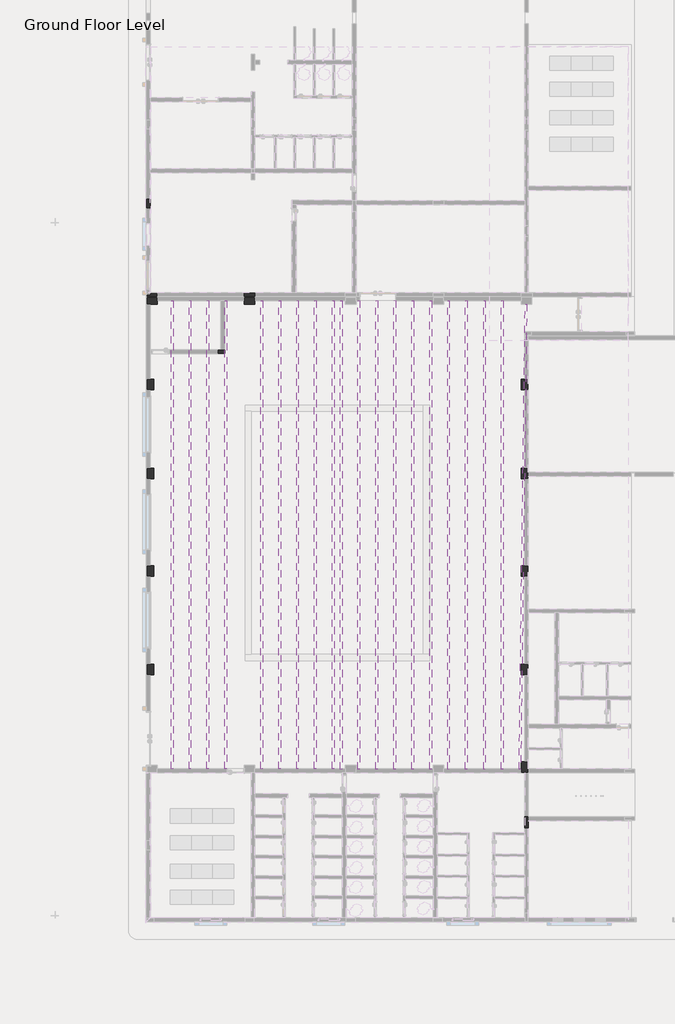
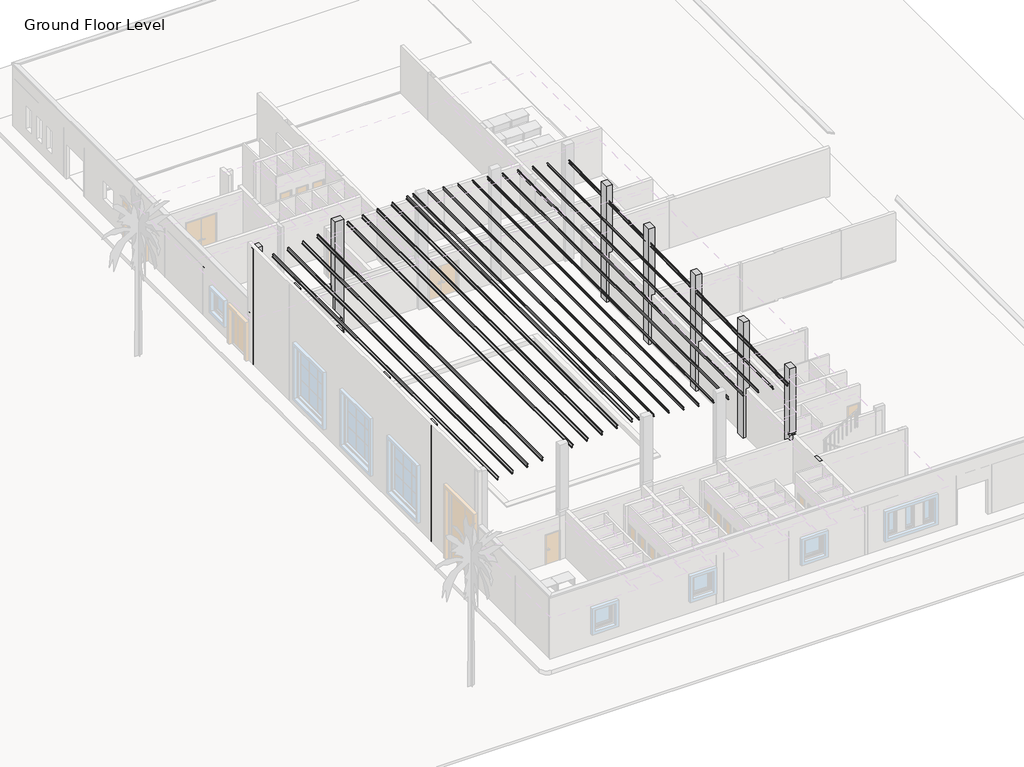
# One storey, part 14 of 23: 37 beams, 16 columns, 14 slabs.
"""IFC4 building model written with IfcOpenShell, lengths in millimetres."""

from ifc_helpers import new_model, si_unit, frame, origin, place, context, project, spatial, polyline, outline, extrude, faceted_brep, transform, mapped, element, save
from components import light_gauge_c_purlin_a75ac1f7, light_gauge_zeds_purlin_6e7aff67, light_gauge_zeds_purlin_74075710

model = new_model("IFC4")

# Units and contexts
model_context = context("Model", 3, world=origin())
ifc_project = project(units=[si_unit("LENGTHUNIT", "METRE", prefix="MILLI")], contexts=[model_context])

# Site, building, storey
site = spatial("IfcSite", under=ifc_project)
building = spatial("IfcBuilding", under=site)
storey = spatial("IfcBuildingStorey", under=building, Name="Ground Floor Level", Elevation=900.0)

# Beams
placement = place(None, origin())
element("IfcBeam", 1, ObjectType="Concrete - Rectangular Beam : GB1", at=placement, inside=storey, context=model_context, shape_type="SweptSolid", body=[
    extrude(outline(polyline([(-17847.2327605, -6374.7846466), (-17647.2327605, -6374.7846466), (-17647.2327605, -9154.7846466), (-17847.2327605, -9154.7846466), (-17847.2327605, -6374.7846466)])), frame((0.0, 0.0, 500.0), z_axis=(0.0, 0.0, 1.0), x_axis=(1.0, 0.0, 0.0)), (0.0, 0.0, 1.0), 100.0),
])
element("IfcBeam", 2, ObjectType="Concrete - Rectangular Beam : GB2", at=placement, inside=storey, context=model_context, shape_type="SweptSolid", body=[
    extrude(outline(polyline([(-747.2327605, -32954.7846466), (-547.2327605, -32954.7846466), (-547.2327605, -35454.7846466), (-747.2327605, -35454.7846466), (-747.2327605, -32954.7846466)])), frame((0.0, 0.0, 300.0), z_axis=(0.0, 0.0, 1.0), x_axis=(1.0, 0.0, 0.0)), (0.0, 0.0, 1.0), 600.0),
])
element("IfcBeam", 3, ObjectType="Concrete - Rectangular Beam : GB3", at=placement, inside=storey, context=model_context, shape_type="SweptSolid", body=[
    extrude(outline(polyline([(-16147.2327605, 445.2153534), (-15947.2327605, 445.2153534), (-15947.2327605, -5904.7846466), (-16147.2327605, -5904.7846466), (-16147.2327605, 445.2153534)])), frame((0.0, 0.0, 300.0), z_axis=(0.0, 0.0, 1.0), x_axis=(1.0, 0.0, 0.0)), (0.0, 0.0, 1.0), 300.0),
])
element("IfcBeam", 4, ObjectType="Concrete - Rectangular Beam : GB3", at=placement, inside=storey, context=model_context, shape_type="SweptSolid", body=[
    extrude(outline(polyline([(-21847.2327605, -9354.7846466), (-21847.2327605, -9154.7846466), (-18047.2327605, -9154.7846466), (-18047.2327605, -9354.7846466), (-21847.2327605, -9354.7846466)])), frame((0.0, 0.0, 300.0), z_axis=(0.0, 0.0, 1.0), x_axis=(1.0, 0.0, 0.0)), (0.0, 0.0, 1.0), 300.0),
])
element("IfcBeam", 5, ObjectType="Concrete - Rectangular Beam : GB4", at=placement, inside=storey, context=model_context, shape_type="SweptSolid", body=[
    extrude(outline(polyline([(-22047.2327605, -5954.7846466), (-22047.2327605, -1154.7846466), (-21847.2327605, -1154.7846466), (-21847.2327605, -5954.7846466), (-22047.2327605, -5954.7846466)])), frame((0.0, 0.0, 300.0), z_axis=(0.0, 0.0, 1.0), x_axis=(1.0, 0.0, 0.0)), (0.0, 0.0, 1.0), 300.0),
])
element("IfcBeam", 6, ObjectType="Concrete - Rectangular Beam : GB4", at=placement, inside=storey, context=model_context, shape_type="SweptSolid", body=[
    extrude(outline(polyline([(-22047.2327605, -11404.7846466), (-21847.2327605, -11404.7846466), (-21847.2327605, -15804.7846466), (-22047.2327605, -15804.7846466), (-22047.2327605, -11404.7846466)])), frame((0.0, 0.0, 300.0), z_axis=(0.0, 0.0, 1.0), x_axis=(1.0, 0.0, 0.0)), (0.0, 0.0, 1.0), 300.0),
])
element("IfcBeam", 7, ObjectType="Concrete - Rectangular Beam : GB4", at=placement, inside=storey, context=model_context, shape_type="SweptSolid", body=[
    extrude(outline(polyline([(-21847.2327605, -21304.7846466), (-22047.2327605, -21304.7846466), (-22047.2327605, -16404.7846466), (-21847.2327605, -16404.7846466), (-21847.2327605, -21304.7846466)])), frame((0.0, 0.0, 300.0), z_axis=(0.0, 0.0, 1.0), x_axis=(1.0, 0.0, 0.0)), (0.0, 0.0, 1.0), 300.0),
])
element("IfcBeam", 8, ObjectType="Concrete - Rectangular Beam : GB4", at=placement, inside=storey, context=model_context, shape_type="SweptSolid", body=[
    extrude(outline(polyline([(-22047.2327605, -26854.7846468), (-22047.2327605, -21904.7846466), (-21847.2327605, -21904.7846466), (-21847.2327605, -26854.7846468), (-22047.2327605, -26854.7846468)])), frame((0.0, 0.0, 300.0), z_axis=(0.0, 0.0, 1.0), x_axis=(1.0, 0.0, 0.0)), (0.0, 0.0, 1.0), 300.0),
])
element("IfcBeam", 9, ObjectType="Concrete - Rectangular Beam : GB4", at=placement, inside=storey, context=model_context, shape_type="SweptSolid", body=[
    extrude(outline(polyline([(-22047.2327605, -32554.7846466), (-22047.2327605, -27454.7846468), (-21847.2327605, -27454.7846468), (-21847.2327605, -32554.7846466), (-22047.2327605, -32554.7846466)])), frame((0.0, 0.0, 300.0), z_axis=(0.0, 0.0, 1.0), x_axis=(1.0, 0.0, 0.0)), (0.0, 0.0, 1.0), 300.0),
])
element("IfcBeam", 10, ObjectType="Concrete - Rectangular Beam : GB4", at=placement, inside=storey, context=model_context, shape_type="SweptSolid", body=[
    extrude(outline(polyline([(-747.2327605, -11404.7846466), (-547.2327605, -11404.7846466), (-547.2327605, -15804.7846466), (-747.2327605, -15804.7846466), (-747.2327605, -11404.7846466)])), frame((0.0, 0.0, 300.0), z_axis=(0.0, 0.0, 1.0), x_axis=(1.0, 0.0, 0.0)), (0.0, 0.0, 1.0), 300.0),
])
element("IfcBeam", 11, ObjectType="Concrete - Rectangular Beam : GB4", at=placement, inside=storey, context=model_context, shape_type="SweptSolid", body=[
    extrude(outline(polyline([(-747.2327605, -16404.7846466), (-547.2327605, -16404.7846466), (-547.2327605, -21304.7846466), (-747.2327605, -21304.7846466), (-747.2327605, -16404.7846466)])), frame((0.0, 0.0, 300.0), z_axis=(0.0, 0.0, 1.0), x_axis=(1.0, 0.0, 0.0)), (0.0, 0.0, 1.0), 600.0),
])
element("IfcBeam", 12, ObjectType="Concrete - Rectangular Beam : GB5", at=placement, inside=storey, context=model_context, shape_type="Brep", body=[
    faceted_brep([(-22047.2327605, -6574.7846466, 300.0), (-22047.2327605, -10804.7846466, 300.0), (-22047.2327605, -10804.7846466, 600.0), (-22047.2327605, -6574.7846466, 600.0), (-21847.2327605, -10804.7846466, 300.0), (-21847.2327605, -6574.7846466, 300.0), (-21847.2327605, -9154.7846466, 300.0), (-21847.2327605, -9354.7846466, 300.0), (-21847.2327605, -6574.7846466, 600.0), (-21847.2327605, -9154.7846466, 600.0), (-21847.2327605, -9354.7846466, 600.0), (-21847.2327605, -10804.7846466, 600.0)], [[[0, 1, 2, 3]], [[4, 1, 0, 5, 6, 7]], [[4, 7, 6, 5, 8, 9, 10, 11]], [[1, 4, 11, 2]], [[5, 0, 3, 8]], [[3, 2, 11, 10, 9, 8]]]),
])
element("IfcBeam", 13, ObjectType="Concrete - Rectangular Beam : GB5", at=placement, inside=storey, context=model_context, shape_type="SweptSolid", body=[
    extrude(outline(polyline([(-16547.2327605, -5954.7846466), (-16547.2327605, -6154.7846466), (-21447.2327605, -6154.7846466), (-21447.2327605, -5954.7846466), (-16547.2327605, -5954.7846466)])), frame((0.0, 0.0, 300.0), z_axis=(0.0, 0.0, 1.0), x_axis=(1.0, 0.0, 0.0)), (0.0, 0.0, 1.0), 300.0),
])
element("IfcBeam", 14, ObjectType="Concrete - Rectangular Beam : GB5", at=placement, inside=storey, context=model_context, shape_type="Brep", body=[
    faceted_brep([(-21447.2327605, -6374.7846466, 300.0), (-16547.2327605, -6374.7846466, 300.0), (-16547.2327605, -6374.7846466, 600.0), (-17647.2327605, -6374.7846466, 600.0), (-17847.2327605, -6374.7846466, 600.0), (-21447.2327605, -6374.7846466, 600.0), (-21447.2327605, -6174.7846466, 300.0), (-16547.2327605, -6174.7846466, 300.0), (-21447.2327605, -6174.7846466, 600.0), (-16547.2327605, -6174.7846466, 600.0)], [[[0, 1, 2, 3, 4, 5]], [[0, 6, 7, 1]], [[7, 6, 8, 9]], [[6, 0, 5, 8]], [[1, 7, 9, 2]], [[5, 4, 3, 2, 9, 8]]]),
])
element("IfcBeam", 15, ObjectType="Concrete - Rectangular Beam : GB5", at=placement, inside=storey, context=model_context, shape_type="SweptSolid", body=[
    extrude(outline(polyline([(-747.2327605, -21904.7846466), (-547.2327605, -21904.7846466), (-547.2327605, -26854.7846466), (-747.2327605, -26854.7846466), (-747.2327605, -21904.7846466)])), frame((0.0, 0.0, 300.0), z_axis=(0.0, 0.0, 1.0), x_axis=(1.0, 0.0, 0.0)), (0.0, 0.0, 1.0), 600.0),
])
element("IfcBeam", 16, ObjectType="Concrete - Rectangular Beam : GB5", at=placement, inside=storey, context=model_context, shape_type="SweptSolid", body=[
    extrude(outline(polyline([(-747.2327605, -27454.7846466), (-547.2327605, -27454.7846466), (-547.2327605, -32354.7846466), (-747.2327605, -32354.7846466), (-747.2327605, -27454.7846466)])), frame((0.0, 0.0, 300.0), z_axis=(0.0, 0.0, 1.0), x_axis=(1.0, 0.0, 0.0)), (0.0, 0.0, 1.0), 600.0),
])
element("IfcBeam", 17, ObjectType="Concrete - Rectangular Beam : GB5", at=placement, inside=storey, context=model_context, shape_type="SweptSolid", body=[
    extrude(outline(polyline([(-947.2327605, -32754.7846466), (-947.2327605, -32954.7846466), (-5297.2327605, -32954.7846466), (-5297.2327605, -32754.7846466), (-947.2327605, -32754.7846466)])), frame((0.0, 0.0, 300.0), z_axis=(0.0, 0.0, 1.0), x_axis=(1.0, 0.0, 0.0)), (0.0, 0.0, 1.0), 600.0),
])
light_gauge_c_purlin_shape = light_gauge_c_purlin_a75ac1f7(model_context)
element("IfcBeam", 18, ObjectType="Light Gauge-C Purlin : Metsec-202C15", at=placement, inside=storey, context=model_context, shape_type="MappedRepresentation", body=[
    mapped(light_gauge_c_purlin_shape, transform((-830.523976, -19624.7846466, 7999.4120033), x_axis=(-0.013120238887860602, -0.999912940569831, 0.0014037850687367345), y_axis=(0.99423827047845, -0.013195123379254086, -0.10637739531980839), z_axis=(0.1063866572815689, 0.0, 0.9943248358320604))),
])
light_gauge_zeds_purlin_shape = light_gauge_zeds_purlin_6e7aff67(model_context)
element("IfcBeam", 19, ObjectType="Light Gauge-Zeds-Purlin : Metsec-202Z20", at=placement, inside=storey, context=model_context, shape_type="MappedRepresentation", body=[
    mapped(light_gauge_zeds_purlin_shape, transform((-20609.1974466, -19559.7846466, 8126.0075516), x_axis=(0.0, 1.0, 0.0), y_axis=(-0.9943248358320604, 0.0, -0.1063866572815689), z_axis=(-0.1063866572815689, 0.0, 0.9943248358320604))),
])
element("IfcBeam", 20, ObjectType="Light Gauge-Zeds-Purlin : Metsec-202Z20", at=placement, inside=storey, context=model_context, shape_type="MappedRepresentation", body=[
    mapped(light_gauge_zeds_purlin_shape, transform((-19601.9507454, -19559.7846466, 8233.7767692), x_axis=(0.0, 1.0, 0.0), y_axis=(-0.9943248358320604, 0.0, -0.1063866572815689), z_axis=(-0.1063866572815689, 0.0, 0.9943248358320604))),
])
element("IfcBeam", 21, ObjectType="Light Gauge-Zeds-Purlin : Metsec-202Z20", at=placement, inside=storey, context=model_context, shape_type="MappedRepresentation", body=[
    mapped(light_gauge_zeds_purlin_shape, transform((-18592.8606452, -19559.7846466, 8341.7432192), x_axis=(0.0, 1.0, 0.0), y_axis=(-0.9943248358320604, 0.0, -0.1063866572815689), z_axis=(-0.1063866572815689, 0.0, 0.9943248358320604))),
])
element("IfcBeam", 22, ObjectType="Light Gauge-Zeds-Purlin : Metsec-202Z20", at=placement, inside=storey, context=model_context, shape_type="MappedRepresentation", body=[
    mapped(light_gauge_zeds_purlin_shape, transform((-17582.9499586, -19559.7846466, 8449.7974669), x_axis=(0.0, 1.0, 0.0), y_axis=(-0.9943248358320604, 0.0, -0.1063866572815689), z_axis=(-0.1063866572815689, 0.0, 0.9943248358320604))),
])
element("IfcBeam", 23, ObjectType="Light Gauge-Zeds-Purlin : Metsec-202Z20", at=placement, inside=storey, context=model_context, shape_type="MappedRepresentation", body=[
    mapped(light_gauge_zeds_purlin_shape, transform((-15564.3582866, -19559.7846466, 8665.7743918), x_axis=(0.0, 1.0, 0.0), y_axis=(-0.9943248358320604, 0.0, -0.1063866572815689), z_axis=(-0.1063866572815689, 0.0, 0.9943248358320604))),
])
element("IfcBeam", 24, ObjectType="Light Gauge-Zeds-Purlin : Metsec-202Z20", at=placement, inside=storey, context=model_context, shape_type="MappedRepresentation", body=[
    mapped(light_gauge_zeds_purlin_shape, transform((-14547.6510449, -19559.7846466, 8774.5558292), x_axis=(0.0, 1.0, 0.0), y_axis=(-0.9943248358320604, 0.0, -0.1063866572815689), z_axis=(-0.1063866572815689, 0.0, 0.9943248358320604))),
])
element("IfcBeam", 25, ObjectType="Light Gauge-Zeds-Purlin : Metsec-202Z20", at=placement, inside=storey, context=model_context, shape_type="MappedRepresentation", body=[
    mapped(light_gauge_zeds_purlin_shape, transform((-13544.9479825, -19559.7846466, 8881.8389053), x_axis=(0.0, 1.0, 0.0), y_axis=(-0.9943248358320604, 0.0, -0.1063866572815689), z_axis=(-0.1063866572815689, 0.0, 0.9943248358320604))),
])
element("IfcBeam", 26, ObjectType="Light Gauge-Zeds-Purlin : Metsec-202Z20", at=placement, inside=storey, context=model_context, shape_type="MappedRepresentation", body=[
    mapped(light_gauge_zeds_purlin_shape, transform((-12535.4471869, -19559.7846466, 8989.8492972), x_axis=(0.0, 1.0, 0.0), y_axis=(-0.9943248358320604, 0.0, -0.1063866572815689), z_axis=(-0.1063866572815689, 0.0, 0.9943248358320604))),
])
element("IfcBeam", 27, ObjectType="Light Gauge-Zeds-Purlin : Metsec-202Z20", at=placement, inside=storey, context=model_context, shape_type="MappedRepresentation", body=[
    mapped(light_gauge_zeds_purlin_shape, transform((-11525.9463912, -19559.7846466, 9097.8596891), x_axis=(0.0, 1.0, 0.0), y_axis=(-0.9943248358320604, 0.0, -0.1063866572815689), z_axis=(-0.1063866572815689, 0.0, 0.9943248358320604))),
])
light_gauge_zeds_purlin_2_shape = light_gauge_zeds_purlin_74075710(model_context)
element("IfcBeam", 28, ObjectType="Light Gauge-Zeds-Purlin : Metsec-202Z20", at=placement, inside=storey, context=model_context, shape_type="MappedRepresentation", body=[
    mapped(light_gauge_zeds_purlin_2_shape, transform((-2007.8234659, -19574.7846466, 8126.2809628), x_axis=(0.0, -1.0, 0.0), y_axis=(0.9943248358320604, 0.0, -0.1063866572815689), z_axis=(0.1063866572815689, 0.0, 0.9943248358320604))),
])
element("IfcBeam", 29, ObjectType="Light Gauge-Zeds-Purlin : Metsec-202Z20", at=placement, inside=storey, context=model_context, shape_type="MappedRepresentation", body=[
    mapped(light_gauge_zeds_purlin_2_shape, transform((-3010.5261259, -19574.7846466, 8233.5639959), x_axis=(0.0, -1.0, 0.0), y_axis=(0.9943248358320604, 0.0, -0.1063866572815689), z_axis=(0.1063866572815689, 0.0, 0.9943248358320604))),
])
element("IfcBeam", 30, ObjectType="Light Gauge-Zeds-Purlin : Metsec-202Z20", at=placement, inside=storey, context=model_context, shape_type="MappedRepresentation", body=[
    mapped(light_gauge_zeds_purlin_2_shape, transform((-4026.824655, -19574.7846466, 8342.3017036), x_axis=(0.0, -1.0, 0.0), y_axis=(0.9943248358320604, 0.0, -0.1063866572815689), z_axis=(0.1063866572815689, 0.0, 0.9943248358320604))),
])
element("IfcBeam", 31, ObjectType="Light Gauge-Zeds-Purlin : Metsec-202Z20", at=placement, inside=storey, context=model_context, shape_type="MappedRepresentation", body=[
    mapped(light_gauge_zeds_purlin_2_shape, transform((-5036.3246462, -19574.7846466, 8450.3120094), x_axis=(0.0, -1.0, 0.0), y_axis=(0.9943248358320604, 0.0, -0.1063866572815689), z_axis=(0.1063866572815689, 0.0, 0.9943248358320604))),
])
element("IfcBeam", 32, ObjectType="Light Gauge-Zeds-Purlin : Metsec-202Z20", at=placement, inside=storey, context=model_context, shape_type="MappedRepresentation", body=[
    mapped(light_gauge_zeds_purlin_2_shape, transform((-6039.0273063, -19574.7846466, 8557.5950425), x_axis=(0.0, -1.0, 0.0), y_axis=(0.9943248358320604, 0.0, -0.1063866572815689), z_axis=(0.1063866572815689, 0.0, 0.9943248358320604))),
])
element("IfcBeam", 33, ObjectType="Light Gauge-Zeds-Purlin : Metsec-202Z20", at=placement, inside=storey, context=model_context, shape_type="MappedRepresentation", body=[
    mapped(light_gauge_zeds_purlin_2_shape, transform((-7048.5281019, -19574.7846466, 8665.6054343), x_axis=(0.0, -1.0, 0.0), y_axis=(0.9943248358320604, 0.0, -0.1063866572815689), z_axis=(0.1063866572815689, 0.0, 0.9943248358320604))),
])
element("IfcBeam", 34, ObjectType="Light Gauge-Zeds-Purlin : Metsec-202Z20", at=placement, inside=storey, context=model_context, shape_type="MappedRepresentation", body=[
    mapped(light_gauge_zeds_purlin_2_shape, transform((-8058.0280931, -19574.7846466, 8773.6157401), x_axis=(0.0, -1.0, 0.0), y_axis=(0.9943248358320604, 0.0, -0.1063866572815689), z_axis=(0.1063866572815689, 0.0, 0.9943248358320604))),
])
element("IfcBeam", 35, ObjectType="Light Gauge-Zeds-Purlin : Metsec-202Z20", at=placement, inside=storey, context=model_context, shape_type="MappedRepresentation", body=[
    mapped(light_gauge_zeds_purlin_2_shape, transform((-9067.5288888, -19574.7846466, 8881.626132), x_axis=(0.0, -1.0, 0.0), y_axis=(0.9943248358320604, 0.0, -0.1063866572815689), z_axis=(0.1063866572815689, 0.0, 0.9943248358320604))),
])
element("IfcBeam", 36, ObjectType="Light Gauge-Zeds-Purlin : Metsec-202Z20", at=placement, inside=storey, context=model_context, shape_type="MappedRepresentation", body=[
    mapped(light_gauge_zeds_purlin_2_shape, transform((-10083.8274179, -19574.7846466, 8990.3638397), x_axis=(0.0, -1.0, 0.0), y_axis=(0.9943248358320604, 0.0, -0.1063866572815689), z_axis=(0.1063866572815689, 0.0, 0.9943248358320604))),
])
element("IfcBeam", 37, ObjectType="Light Gauge-Zeds-Purlin : Metsec-202Z20", at=placement, inside=storey, context=model_context, shape_type="MappedRepresentation", body=[
    mapped(light_gauge_zeds_purlin_2_shape, transform((-11086.5304802, -19574.7846466, 9097.6469158), x_axis=(0.0, -1.0, 0.0), y_axis=(0.9943248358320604, 0.0, -0.1063866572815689), z_axis=(0.1063866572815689, 0.0, 0.9943248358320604))),
])

# Columns
element("IfcColumn", 38, ObjectType="Concrete Rectangular : C1", at=placement, inside=storey, context=model_context, shape_type="Brep", body=[
    faceted_brep([(-18047.2327605, -9154.7846466, -300.0), (-17647.2327605, -9154.7846466, -300.0), (-17647.2327605, -9354.7846466, -300.0), (-18047.2327605, -9354.7846466, -300.0), (-18047.2327605, -9154.7846466, 900.0), (-18047.2327605, -9154.7846466, 4270.0), (-17657.2327605, -9154.7846466, 4270.0), (-17657.2327605, -9154.7846466, 4400.0), (-17647.2327605, -9154.7846466, 4400.0), (-17647.2327605, -9154.7846466, 900.0), (-17647.2327605, -9354.7846466, 4400.0), (-17647.2327605, -9354.7846466, 900.0), (-17657.2327605, -9354.7846466, 4400.0), (-17657.2327605, -9354.7846466, 4270.0), (-18047.2327605, -9354.7846466, 4270.0), (-18047.2327605, -9354.7846466, 900.0)], [[[0, 1, 2, 3]], [[1, 0, 4, 5, 6, 7, 8, 9]], [[2, 1, 9, 8, 10, 11]], [[3, 2, 11, 10, 12, 13, 14, 15]], [[0, 3, 15, 14, 5, 4]], [[10, 8, 7, 12]], [[13, 6, 5, 14]], [[6, 13, 12, 7]]]),
])
element("IfcColumn", 39, ObjectType="Concrete Rectangular : C2", at=placement, inside=storey, context=model_context, shape_type="Brep", body=[
    faceted_brep([(-22047.2327605, -1154.7846466, -300.0), (-22047.2327605, -654.7846466, -300.0), (-21847.2327605, -654.7846466, -300.0), (-21847.2327605, -1154.7846466, -300.0), (-22047.2327605, -654.7846466, 600.0), (-22047.2327605, -1154.7846466, 600.0), (-21847.2327605, -1154.7846466, 600.0), (-21847.2327605, -654.7846466, 600.0), (-22047.2327605, -1154.7846466, 300.0), (-22047.2327605, -654.7846466, 300.0), (-21847.2327605, -654.7846466, 300.0), (-21847.2327605, -1154.7846466, 300.0)], [[[0, 1, 2, 3]], [[4, 5, 6, 7]], [[1, 0, 8, 5, 4, 9]], [[2, 1, 9, 4, 7, 10]], [[3, 2, 10, 7, 6, 11]], [[0, 3, 11, 6, 5, 8]]]),
    faceted_brep([(-22047.2327605, -1154.7846466, 4400.0), (-22047.2327605, -654.7846466, 4400.0), (-22047.2327605, -654.7846466, 900.0), (-22047.2327605, -1154.7846466, 900.0), (-21847.2327605, -654.7846466, 4400.0), (-21847.2327605, -654.7846466, 1000.0), (-21847.2327605, -654.7846466, 900.0), (-21847.2327605, -1154.7846466, 4400.0), (-21847.2327605, -1154.7846466, 1000.0), (-21847.2327605, -1154.7846466, 900.0)], [[[0, 1, 2, 3]], [[1, 4, 5, 6, 2]], [[4, 7, 8, 9, 6, 5]], [[7, 0, 3, 9, 8]], [[1, 0, 7, 4]], [[3, 2, 6, 9]]]),
])
element("IfcColumn", 40, ObjectType="Concrete Rectangular : C3", at=placement, inside=storey, context=model_context, shape_type="Brep", body=[
    faceted_brep([(-15947.2327605, -6154.7846466, -300.0), (-16547.2327605, -6154.7846466, -300.0), (-16547.2327605, -5954.7846466, -300.0), (-15947.2327605, -5954.7846466, -300.0), (-15947.2327605, -6154.7846466, 4400.0), (-16547.2327605, -6154.7846466, 4400.0), (-16547.2327605, -6154.7846466, 4100.0), (-16547.2327605, -6154.7846466, 900.0), (-15947.2327605, -6154.7846466, 900.0), (-15947.2327605, -6154.7846466, 4100.0), (-16547.2327605, -5954.7846466, 4400.0), (-16547.2327605, -5954.7846466, 4100.0), (-16547.2327605, -5954.7846466, 1000.0), (-16547.2327605, -5954.7846466, 900.0), (-15947.2327605, -5954.7846466, 4400.0), (-15947.2327605, -5954.7846466, 4100.0), (-15947.2327605, -5954.7846466, 1000.0), (-15947.2327605, -5954.7846466, 900.0)], [[[0, 1, 2, 3]], [[4, 5, 6, 7, 1, 0, 8, 9]], [[5, 10, 11, 12, 13, 2, 1, 7, 6]], [[10, 14, 15, 16, 17, 3, 2, 13, 12, 11]], [[14, 4, 9, 8, 0, 3, 17, 16, 15]], [[4, 14, 10, 5]]]),
])
element("IfcColumn", 41, ObjectType="Concrete Rectangular : C3", at=placement, inside=storey, context=model_context, shape_type="Brep", body=[
    faceted_brep([(-21447.2327605, -6154.7846466, -300.0), (-22047.2327605, -6154.7846466, -300.0), (-22047.2327605, -5954.7846466, -300.0), (-21447.2327605, -5954.7846466, -300.0), (-22047.2327605, -6154.7846466, 600.0), (-21447.2327605, -6154.7846466, 600.0), (-21447.2327605, -5954.7846466, 600.0), (-21847.2327605, -5954.7846466, 600.0), (-22047.2327605, -5954.7846466, 600.0), (-21447.2327605, -6154.7846466, 300.0), (-22047.2327605, -5954.7846466, 300.0), (-21447.2327605, -5954.7846466, 300.0)], [[[0, 1, 2, 3]], [[4, 5, 6, 7, 8]], [[1, 0, 9, 5, 4]], [[2, 1, 4, 8, 10]], [[3, 2, 10, 8, 7, 6, 11]], [[0, 3, 11, 6, 5, 9]]]),
    faceted_brep([(-21447.2327605, -6154.7846466, 4400.0), (-21837.2327605, -6154.7846466, 4400.0), (-22047.2327605, -6154.7846466, 4400.0), (-22047.2327605, -6154.7846466, 900.0), (-21837.2327605, -6154.7846466, 900.0), (-21447.2327605, -6154.7846466, 900.0), (-21447.2327605, -6154.7846466, 4100.0), (-22047.2327605, -5954.7846466, 4400.0), (-22047.2327605, -5954.7846466, 4100.0), (-22047.2327605, -5954.7846466, 900.0), (-22047.2327605, -6054.7846466, 900.0), (-21837.2327605, -5954.7846466, 4400.0), (-21447.2327605, -5954.7846466, 4400.0), (-21447.2327605, -5954.7846466, 4100.0), (-21447.2327605, -5954.7846466, 1000.0), (-21447.2327605, -5954.7846466, 900.0)], [[[0, 1, 2, 3, 4, 5, 6]], [[2, 7, 8, 9, 10, 3]], [[7, 11, 12, 13, 14, 15, 9, 8]], [[12, 0, 6, 5, 15, 14, 13]], [[2, 1, 0, 12, 11, 7]], [[5, 4, 3, 10, 9, 15]]]),
])
element("IfcColumn", 42, ObjectType="Concrete Rectangular : C3", at=placement, inside=storey, context=model_context, shape_type="Brep", body=[
    faceted_brep([(-547.2327605, -35454.7846466, -300.0), (-547.2327605, -36054.7846466, -300.0), (-747.2327605, -36054.7846466, -300.0), (-747.2327605, -35454.7846466, -300.0), (-547.2327605, -36054.7846466, 600.0), (-547.2327605, -35654.7846466, 600.0), (-547.2327605, -35454.7846466, 600.0), (-747.2327605, -35454.7846466, 600.0), (-747.2327605, -36054.7846466, 600.0), (-547.2327605, -35454.7846466, 300.0)], [[[0, 1, 2, 3]], [[4, 5, 6, 7, 8]], [[1, 0, 9, 6, 5, 4]], [[2, 1, 4, 8]], [[3, 2, 8, 7]], [[0, 3, 7, 6, 9]]]),
    faceted_brep([(-547.2327605, -35454.7846466, 4400.0), (-547.2327605, -36054.7846466, 4400.0), (-547.2327605, -36054.7846466, 1000.0), (-547.2327605, -36054.7846466, 900.0), (-547.2327605, -35654.7846466, 900.0), (-547.2327605, -35454.7846466, 900.0), (-547.2327605, -35454.7846466, 1000.0), (-747.2327605, -36054.7846466, 4400.0), (-747.2327605, -36054.7846466, 1000.0), (-747.2327605, -36054.7846466, 900.0), (-747.2327605, -35454.7846466, 4400.0), (-747.2327605, -35454.7846466, 1000.0), (-747.2327605, -35454.7846466, 900.0)], [[[0, 1, 2, 3, 4, 5, 6]], [[1, 7, 8, 9, 3, 2]], [[7, 10, 11, 12, 9, 8]], [[10, 0, 6, 5, 12, 11]], [[1, 0, 10, 7]], [[5, 4, 3, 9, 12]]]),
])
element("IfcColumn", 43, ObjectType="Concrete Rectangular : C4", at=placement, inside=storey, context=model_context, shape_type="Brep", body=[
    faceted_brep([(-21647.2327605, -10804.7846466, -300.0), (-21647.2327605, -11404.7846466, -300.0), (-22047.2327605, -11404.7846466, -300.0), (-22047.2327605, -10804.7846466, -300.0), (-21647.2327605, -11404.7846466, 600.0), (-21647.2327605, -10804.7846466, 600.0), (-21847.2327605, -10804.7846466, 600.0), (-22047.2327605, -10804.7846466, 600.0), (-22047.2327605, -11404.7846466, 600.0), (-21847.2327605, -11404.7846466, 600.0), (-22047.2327605, -11404.7846466, 300.0), (-22047.2327605, -10804.7846466, 300.0)], [[[0, 1, 2, 3]], [[4, 5, 6, 7, 8, 9]], [[1, 0, 5, 4]], [[2, 1, 4, 9, 8, 10]], [[0, 3, 11, 7, 6, 5]], [[3, 2, 10, 8, 7, 11]]]),
    faceted_brep([(-21647.2327605, -10804.7846466, 9200.0), (-21647.2327605, -11404.7846466, 9200.0), (-21647.2327605, -11404.7846466, 900.0), (-21647.2327605, -10804.7846466, 900.0), (-21837.2327605, -11404.7846466, 9200.0), (-22047.2327605, -11404.7846466, 9200.0), (-22047.2327605, -11404.7846466, 900.0), (-21847.2327605, -11404.7846466, 900.0), (-22047.2327605, -10804.7846466, 9200.0), (-22047.2327605, -10804.7846466, 900.0), (-21837.2327605, -10804.7846466, 9200.0), (-21847.2327605, -10804.7846466, 900.0)], [[[0, 1, 2, 3]], [[1, 4, 5, 6, 7, 2]], [[5, 8, 9, 6]], [[8, 10, 0, 3, 11, 9]], [[1, 0, 10, 8, 5, 4]], [[3, 2, 7, 6, 9, 11]]]),
])
element("IfcColumn", 44, ObjectType="Concrete Rectangular : C4", at=placement, inside=storey, context=model_context, shape_type="Brep", body=[
    faceted_brep([(-547.2327605, -10804.7846466, -300.0), (-547.2327605, -11404.7846466, -300.0), (-947.2327605, -11404.7846466, -300.0), (-947.2327605, -10804.7846466, -300.0), (-547.2327605, -11404.7846466, 600.0), (-547.2327605, -10804.7846466, 600.0), (-567.2327605, -10804.7846466, 600.0), (-767.2327605, -10804.7846466, 600.0), (-947.2327605, -10804.7846466, 600.0), (-947.2327605, -11404.7846466, 600.0), (-747.2327605, -11404.7846466, 600.0), (-547.2327605, -11404.7846466, 300.0)], [[[0, 1, 2, 3]], [[4, 5, 6, 7, 8, 9, 10]], [[2, 1, 11, 4, 10, 9]], [[3, 2, 9, 8]], [[0, 3, 8, 7, 6, 5]], [[1, 0, 5, 4, 11]]]),
    faceted_brep([(-547.2327605, -10804.7846466, 9200.0), (-547.2327605, -11404.7846466, 9200.0), (-547.2327605, -11404.7846466, 4550.0), (-547.2327605, -11404.7846466, 4400.0), (-547.2327605, -11404.7846466, 1000.0), (-547.2327605, -11404.7846466, 900.0), (-547.2327605, -10804.7846466, 900.0), (-547.2327605, -10804.7846466, 1000.0), (-547.2327605, -10804.7846466, 4400.0), (-547.2327605, -10804.7846466, 4550.0), (-747.2327605, -11404.7846466, 9200.0), (-947.2327605, -11404.7846466, 9200.0), (-947.2327605, -11404.7846466, 900.0), (-747.2327605, -11404.7846466, 900.0), (-947.2327605, -10804.7846466, 9200.0), (-947.2327605, -10804.7846466, 900.0), (-747.2327605, -10804.7846466, 9200.0), (-747.2327605, -10804.7846466, 900.0)], [[[0, 1, 2, 3, 4, 5, 6, 7, 8, 9]], [[1, 10, 11, 12, 13, 5, 4, 3, 2]], [[11, 14, 15, 12]], [[14, 16, 0, 9, 8, 7, 6, 17, 15]], [[1, 0, 16, 14, 11, 10]], [[6, 5, 13, 12, 15, 17]]]),
])
element("IfcColumn", 45, ObjectType="Concrete Rectangular : C4", at=placement, inside=storey, context=model_context, shape_type="Brep", body=[
    faceted_brep([(-547.2327605, -15804.7846466, -300.0), (-547.2327605, -16404.7846466, -300.0), (-947.2327605, -16404.7846466, -300.0), (-947.2327605, -15804.7846466, -300.0), (-547.2327605, -16404.7846466, 600.0), (-547.2327605, -16254.7846466, 600.0), (-547.2327605, -16054.7846466, 600.0), (-547.2327605, -15804.7846466, 600.0), (-747.2327605, -15804.7846466, 600.0), (-947.2327605, -15804.7846466, 600.0), (-947.2327605, -16404.7846466, 600.0), (-547.2327605, -15804.7846466, 300.0)], [[[0, 1, 2, 3]], [[4, 5, 6, 7, 8, 9, 10]], [[2, 1, 4, 10]], [[3, 2, 10, 9]], [[0, 3, 9, 8, 7, 11]], [[1, 0, 11, 7, 6, 5, 4]]]),
    faceted_brep([(-547.2327605, -15804.7846466, 9200.0), (-547.2327605, -16404.7846466, 9200.0), (-547.2327605, -16404.7846466, 4550.0), (-547.2327605, -16404.7846466, 4400.0), (-547.2327605, -16404.7846466, 1000.0), (-547.2327605, -16404.7846466, 900.0), (-547.2327605, -16254.7846466, 900.0), (-547.2327605, -16054.7846466, 900.0), (-547.2327605, -15804.7846466, 900.0), (-547.2327605, -15804.7846466, 1000.0), (-547.2327605, -15804.7846466, 4400.0), (-547.2327605, -15804.7846466, 4550.0), (-747.2327605, -16404.7846466, 9200.0), (-947.2327605, -16404.7846466, 9200.0), (-947.2327605, -16404.7846466, 900.0), (-747.2327605, -16404.7846466, 900.0), (-947.2327605, -15804.7846466, 9200.0), (-947.2327605, -15804.7846466, 900.0), (-747.2327605, -15804.7846466, 9200.0), (-747.2327605, -15804.7846466, 900.0)], [[[0, 1, 2, 3, 4, 5, 6, 7, 8, 9, 10, 11]], [[1, 12, 13, 14, 15, 5, 4, 3, 2]], [[13, 16, 17, 14]], [[16, 18, 0, 11, 10, 9, 8, 19, 17]], [[1, 0, 18, 16, 13, 12]], [[8, 7, 6, 5, 15, 14, 17, 19]]]),
])
element("IfcColumn", 46, ObjectType="Concrete Rectangular : C4", at=placement, inside=storey, context=model_context, shape_type="Brep", body=[
    faceted_brep([(-547.2327605, -21304.7846466, -300.0), (-547.2327605, -21904.7846466, -300.0), (-947.2327605, -21904.7846466, -300.0), (-947.2327605, -21304.7846466, -300.0), (-547.2327605, -21904.7846466, 600.0), (-547.2327605, -21704.7846466, 600.0), (-547.2327605, -21304.7846466, 600.0), (-947.2327605, -21304.7846466, 600.0), (-947.2327605, -21904.7846466, 600.0), (-547.2327605, -21904.7846466, 300.0)], [[[0, 1, 2, 3]], [[4, 5, 6, 7, 8]], [[2, 1, 9, 4, 8]], [[3, 2, 8, 7]], [[0, 3, 7, 6]], [[1, 0, 6, 5, 4, 9]]]),
    faceted_brep([(-547.2327605, -21304.7846466, 9200.0), (-547.2327605, -21904.7846466, 9200.0), (-547.2327605, -21904.7846466, 4550.0), (-547.2327605, -21904.7846466, 4400.0), (-547.2327605, -21904.7846466, 1000.0), (-547.2327605, -21904.7846466, 900.0), (-547.2327605, -21304.7846466, 900.0), (-547.2327605, -21304.7846466, 1000.0), (-547.2327605, -21304.7846466, 4400.0), (-547.2327605, -21304.7846466, 4550.0), (-747.2327605, -21904.7846466, 9200.0), (-947.2327605, -21904.7846466, 9200.0), (-947.2327605, -21904.7846466, 900.0), (-747.2327605, -21904.7846466, 900.0), (-947.2327605, -21304.7846466, 9200.0), (-947.2327605, -21304.7846466, 900.0), (-747.2327605, -21304.7846466, 9200.0), (-747.2327605, -21304.7846466, 900.0)], [[[0, 1, 2, 3, 4, 5, 6, 7, 8, 9]], [[1, 10, 11, 12, 13, 5, 4, 3, 2]], [[11, 14, 15, 12]], [[14, 16, 0, 9, 8, 7, 6, 17, 15]], [[1, 0, 16, 14, 11, 10]], [[6, 5, 13, 12, 15, 17]]]),
])
element("IfcColumn", 47, ObjectType="Concrete Rectangular : C4", at=placement, inside=storey, context=model_context, shape_type="Brep", body=[
    faceted_brep([(-547.2327605, -26854.7846466, -300.0), (-547.2327605, -27454.7846466, -300.0), (-947.2327605, -27454.7846466, -300.0), (-947.2327605, -26854.7846466, -300.0), (-547.2327605, -27454.7846466, 600.0), (-547.2327605, -26854.7846466, 600.0), (-947.2327605, -26854.7846466, 600.0), (-947.2327605, -27454.7846466, 600.0)], [[[0, 1, 2, 3]], [[4, 5, 6, 7]], [[2, 1, 4, 7]], [[3, 2, 7, 6]], [[0, 3, 6, 5]], [[1, 0, 5, 4]]]),
    faceted_brep([(-547.2327605, -26854.7846466, 9200.0), (-547.2327605, -27454.7846466, 9200.0), (-547.2327605, -27454.7846466, 4550.0), (-547.2327605, -27454.7846466, 4400.0), (-547.2327605, -27454.7846466, 900.0), (-547.2327605, -26854.7846466, 900.0), (-547.2327605, -26854.7846466, 4400.0), (-547.2327605, -26854.7846466, 4550.0), (-747.2327605, -27454.7846466, 9200.0), (-947.2327605, -27454.7846466, 9200.0), (-947.2327605, -27454.7846466, 900.0), (-747.2327605, -27454.7846466, 900.0), (-947.2327605, -26854.7846466, 9200.0), (-947.2327605, -26854.7846466, 900.0), (-747.2327605, -26854.7846466, 9200.0), (-747.2327605, -26854.7846466, 900.0)], [[[0, 1, 2, 3, 4, 5, 6, 7]], [[1, 8, 9, 10, 11, 4, 3, 2]], [[9, 12, 13, 10]], [[12, 14, 0, 7, 6, 5, 15, 13]], [[1, 0, 14, 12, 9, 8]], [[5, 4, 11, 10, 13, 15]]]),
])
element("IfcColumn", 48, ObjectType="Concrete Rectangular : C4", at=placement, inside=storey, context=model_context, shape_type="Brep", body=[
    faceted_brep([(-547.2327605, -32354.7846466, -300.0), (-547.2327605, -32954.7846466, -300.0), (-947.2327605, -32954.7846466, -300.0), (-947.2327605, -32354.7846466, -300.0), (-547.2327605, -32354.7846466, 900.0), (-547.2327605, -32354.7846466, 1000.0), (-547.2327605, -32354.7846466, 4400.0), (-547.2327605, -32354.7846466, 4550.0), (-547.2327605, -32354.7846466, 9200.0), (-547.2327605, -32954.7846466, 9200.0), (-547.2327605, -32954.7846466, 4550.0), (-547.2327605, -32754.7846466, 4550.0), (-547.2327605, -32754.7846466, 4400.0), (-547.2327605, -32854.7846466, 4400.0), (-547.2327605, -32954.7846466, 4400.0), (-547.2327605, -32954.7846466, 4100.0), (-547.2327605, -32954.7846466, 900.0), (-747.2327605, -32954.7846466, 9200.0), (-947.2327605, -32954.7846466, 9200.0), (-947.2327605, -32954.7846466, 4550.0), (-947.2327605, -32954.7846466, 900.0), (-947.2327605, -32954.7846466, 1000.0), (-947.2327605, -32954.7846466, 4100.0), (-947.2327605, -32954.7846466, 4400.0), (-947.2327605, -32754.7846466, 4400.0), (-947.2327605, -32754.7846466, 4550.0), (-947.2327605, -32744.7846466, 9200.0), (-947.2327605, -32354.7846466, 9200.0), (-747.2327605, -32354.7846466, 9200.0)], [[[0, 1, 2, 3]], [[1, 0, 4, 5, 6, 7, 8, 9, 10, 11, 12, 13, 14, 15, 16]], [[9, 17, 18, 19, 10]], [[3, 2, 20, 21, 22, 23, 24, 25, 19, 18, 26, 27]], [[0, 3, 27, 28, 8, 7, 6, 5, 4]], [[9, 8, 28, 27, 26, 18, 17]], [[12, 24, 23, 14, 13]], [[25, 11, 10, 19]], [[24, 12, 11, 25]], [[2, 1, 16, 15, 14, 23, 22, 21, 20]]]),
])
element("IfcColumn", 49, ObjectType="Concrete Rectangular : C4", at=placement, inside=storey, context=model_context, shape_type="Brep", body=[
    faceted_brep([(-22047.2327605, -27454.7846468, -300.0), (-22047.2327605, -26854.7846468, -300.0), (-21647.2327605, -26854.7846468, -300.0), (-21647.2327605, -27454.7846468, -300.0), (-22047.2327605, -26854.7846468, 600.0), (-22047.2327605, -27454.7846468, 600.0), (-21847.2327605, -27454.7846468, 600.0), (-21647.2327605, -27454.7846468, 600.0), (-21647.2327605, -26854.7846468, 600.0), (-21847.2327605, -26854.7846468, 600.0), (-22047.2327605, -26854.7846468, 300.0), (-22047.2327605, -27454.7846468, 300.0)], [[[0, 1, 2, 3]], [[4, 5, 6, 7, 8, 9]], [[2, 1, 10, 4, 9, 8]], [[3, 2, 8, 7]], [[0, 3, 7, 6, 5, 11]], [[1, 0, 11, 5, 4, 10]]]),
    faceted_brep([(-22047.2327605, -27454.7846468, 9200.0), (-22047.2327605, -26854.7846468, 9200.0), (-22047.2327605, -26854.7846468, 900.0), (-22047.2327605, -27454.7846468, 900.0), (-21837.2327605, -26854.7846468, 9200.0), (-21647.2327605, -26854.7846468, 9200.0), (-21647.2327605, -26854.7846468, 900.0), (-21847.2327605, -26854.7846468, 900.0), (-21647.2327605, -27454.7846468, 9200.0), (-21647.2327605, -27454.7846468, 900.0), (-21837.2327605, -27454.7846468, 9200.0), (-21847.2327605, -27454.7846468, 900.0)], [[[0, 1, 2, 3]], [[1, 4, 5, 6, 7, 2]], [[5, 8, 9, 6]], [[8, 10, 0, 3, 11, 9]], [[1, 0, 10, 8, 5, 4]], [[3, 2, 7, 6, 9, 11]]]),
])
element("IfcColumn", 50, ObjectType="Concrete Rectangular : C4", at=placement, inside=storey, context=model_context, shape_type="Brep", body=[
    faceted_brep([(-22047.2327605, -21904.7846466, -300.0), (-22047.2327605, -21304.7846466, -300.0), (-21647.2327605, -21304.7846466, -300.0), (-21647.2327605, -21904.7846466, -300.0), (-22047.2327605, -21304.7846466, 600.0), (-22047.2327605, -21904.7846466, 600.0), (-21847.2327605, -21904.7846466, 600.0), (-21647.2327605, -21904.7846466, 600.0), (-21647.2327605, -21304.7846466, 600.0), (-21847.2327605, -21304.7846466, 600.0), (-22047.2327605, -21304.7846466, 300.0), (-22047.2327605, -21904.7846466, 300.0)], [[[0, 1, 2, 3]], [[4, 5, 6, 7, 8, 9]], [[2, 1, 10, 4, 9, 8]], [[3, 2, 8, 7]], [[0, 3, 7, 6, 5, 11]], [[1, 0, 11, 5, 4, 10]]]),
    faceted_brep([(-22047.2327605, -21904.7846466, 9200.0), (-22047.2327605, -21304.7846466, 9200.0), (-22047.2327605, -21304.7846466, 900.0), (-22047.2327605, -21904.7846466, 900.0), (-21837.2327605, -21304.7846466, 9200.0), (-21647.2327605, -21304.7846466, 9200.0), (-21647.2327605, -21304.7846466, 900.0), (-21847.2327605, -21304.7846466, 900.0), (-21647.2327605, -21904.7846466, 9200.0), (-21647.2327605, -21904.7846466, 900.0), (-21837.2327605, -21904.7846466, 9200.0), (-21847.2327605, -21904.7846466, 900.0)], [[[0, 1, 2, 3]], [[1, 4, 5, 6, 7, 2]], [[5, 8, 9, 6]], [[8, 10, 0, 3, 11, 9]], [[1, 0, 10, 8, 5, 4]], [[3, 2, 7, 6, 9, 11]]]),
])
element("IfcColumn", 51, ObjectType="Concrete Rectangular : C4", at=placement, inside=storey, context=model_context, shape_type="Brep", body=[
    faceted_brep([(-22047.2327605, -16404.7846466, -300.0), (-22047.2327605, -15804.7846466, -300.0), (-21647.2327605, -15804.7846466, -300.0), (-21647.2327605, -16404.7846466, -300.0), (-22047.2327605, -15804.7846466, 600.0), (-22047.2327605, -16404.7846466, 600.0), (-21847.2327605, -16404.7846466, 600.0), (-21647.2327605, -16404.7846466, 600.0), (-21647.2327605, -15804.7846466, 600.0), (-21847.2327605, -15804.7846466, 600.0), (-22047.2327605, -15804.7846466, 300.0), (-22047.2327605, -16404.7846466, 300.0)], [[[0, 1, 2, 3]], [[4, 5, 6, 7, 8, 9]], [[2, 1, 10, 4, 9, 8]], [[3, 2, 8, 7]], [[0, 3, 7, 6, 5, 11]], [[1, 0, 11, 5, 4, 10]]]),
    faceted_brep([(-22047.2327605, -16404.7846466, 9200.0), (-22047.2327605, -15804.7846466, 9200.0), (-22047.2327605, -15804.7846466, 900.0), (-22047.2327605, -16404.7846466, 900.0), (-21837.2327605, -15804.7846466, 9200.0), (-21647.2327605, -15804.7846466, 9200.0), (-21647.2327605, -15804.7846466, 900.0), (-21847.2327605, -15804.7846466, 900.0), (-21647.2327605, -16404.7846466, 9200.0), (-21647.2327605, -16404.7846466, 900.0), (-21837.2327605, -16404.7846466, 9200.0), (-21847.2327605, -16404.7846466, 900.0)], [[[0, 1, 2, 3]], [[1, 4, 5, 6, 7, 2]], [[5, 8, 9, 6]], [[8, 10, 0, 3, 11, 9]], [[1, 0, 10, 8, 5, 4]], [[3, 2, 7, 6, 9, 11]]]),
])
element("IfcColumn", 52, ObjectType="Concrete Rectangular : C4", at=placement, inside=storey, context=model_context, shape_type="Brep", body=[
    faceted_brep([(-22047.2327605, -6174.7846466, -300.0), (-21447.2327605, -6174.7846466, -300.0), (-21447.2327605, -6574.7846466, -300.0), (-22047.2327605, -6574.7846466, -300.0), (-22047.2327605, -6174.7846466, 900.0), (-22047.2327605, -6174.7846466, 9200.0), (-21837.2327605, -6174.7846466, 9200.0), (-21447.2327605, -6174.7846466, 9200.0), (-21447.2327605, -6174.7846466, 4400.0), (-21847.2327605, -6174.7846466, 4400.0), (-21847.2327605, -6174.7846466, 4270.0), (-21447.2327605, -6174.7846466, 4270.0), (-21447.2327605, -6174.7846466, 4100.0), (-21447.2327605, -6174.7846466, 900.0), (-21447.2327605, -6574.7846466, 9200.0), (-21447.2327605, -6574.7846466, 4400.0), (-21447.2327605, -6574.7846466, 4270.0), (-21837.2327605, -6574.7846466, 4270.0), (-21847.2327605, -6574.7846466, 4270.0), (-21847.2327605, -6574.7846466, 4400.0), (-21837.2327605, -6574.7846466, 4400.0), (-21837.2327605, -6574.7846466, 9200.0), (-22047.2327605, -6574.7846466, 9200.0), (-22047.2327605, -6574.7846466, 900.0)], [[[0, 1, 2, 3]], [[1, 0, 4, 5, 6, 7, 8, 9, 10, 11, 12, 13]], [[7, 14, 15, 8]], [[3, 2, 16, 17, 18, 19, 20, 15, 14, 21, 22, 23]], [[0, 3, 23, 22, 5, 4]], [[7, 6, 5, 22, 21, 14]], [[10, 18, 17, 16, 11]], [[19, 9, 8, 15, 20]], [[18, 10, 9, 19]], [[2, 1, 13, 12, 11, 16]]]),
])
element("IfcColumn", 53, ObjectType="Concrete Rectangular : C4", at=placement, inside=storey, context=model_context, shape_type="Brep", body=[
    faceted_brep([(-16547.2327605, -6174.7846466, -300.0), (-15947.2327605, -6174.7846466, -300.0), (-15947.2327605, -6574.7846466, -300.0), (-16547.2327605, -6574.7846466, -300.0), (-16547.2327605, -6174.7846466, 9200.0), (-15947.2327605, -6174.7846466, 9200.0), (-15947.2327605, -6174.7846466, 4100.0), (-15947.2327605, -6174.7846466, 900.0), (-16547.2327605, -6174.7846466, 900.0), (-16547.2327605, -6174.7846466, 4100.0), (-15947.2327605, -6574.7846466, 9200.0), (-16547.2327605, -6574.7846466, 9200.0)], [[[0, 1, 2, 3]], [[4, 5, 6, 7, 1, 0, 8, 9]], [[5, 10, 2, 1, 7, 6]], [[10, 11, 3, 2]], [[11, 4, 9, 8, 0, 3]], [[4, 11, 10, 5]]]),
])

# Slabs
element("IfcSlab", 54, ObjectType="Footing-Rectangular : F1", at=placement, inside=storey, context=model_context, shape_type="SweptSolid", body=[
    extrude(outline(polyline([(-18547.2327605, -8654.7846466), (-17147.2327605, -8654.7846466), (-17147.2327605, -9854.7846466), (-18547.2327605, -9854.7846466), (-18547.2327605, -8654.7846466)])), frame((0.0, 0.0, -800.0), z_axis=(0.0, 0.0, 1.0), x_axis=(1.0, 0.0, 0.0)), (0.0, 0.0, 1.0), 500.0),
])
element("IfcSlab", 55, ObjectType="Footing-Rectangular : F4", at=placement, inside=storey, context=model_context, shape_type="SweptSolid", body=[
    extrude(outline(polyline([(-21097.2327605, -1904.7846466), (-22797.2327605, -1904.7846466), (-22797.2327605, 95.2153534), (-21097.2327605, 95.2153534), (-21097.2327605, -1904.7846466)])), frame((0.0, 0.0, -800.0), z_axis=(0.0, 0.0, 1.0), x_axis=(1.0, 0.0, 0.0)), (0.0, 0.0, 1.0), 500.0),
])
element("IfcSlab", 56, ObjectType="Footing-Rectangular : F4", at=placement, inside=storey, context=model_context, shape_type="SweptSolid", body=[
    extrude(outline(polyline([(-22697.2327605, -10104.7846466), (-20997.2327605, -10104.7846466), (-20997.2327605, -12104.7846466), (-22697.2327605, -12104.7846466), (-22697.2327605, -10104.7846466)])), frame((0.0, 0.0, -800.0), z_axis=(0.0, 0.0, 1.0), x_axis=(1.0, 0.0, 0.0)), (0.0, 0.0, 1.0), 500.0),
])
element("IfcSlab", 57, ObjectType="Footing-Rectangular : F4", at=placement, inside=storey, context=model_context, shape_type="SweptSolid", body=[
    extrude(outline(polyline([(-20997.2327605, -17104.7846466), (-22697.2327605, -17104.7846466), (-22697.2327605, -15104.7846466), (-20997.2327605, -15104.7846466), (-20997.2327605, -17104.7846466)])), frame((0.0, 0.0, -800.0), z_axis=(0.0, 0.0, 1.0), x_axis=(1.0, 0.0, 0.0)), (0.0, 0.0, 1.0), 500.0),
])
element("IfcSlab", 58, ObjectType="Footing-Rectangular : F4", at=placement, inside=storey, context=model_context, shape_type="SweptSolid", body=[
    extrude(outline(polyline([(-20997.2327605, -22604.7846466), (-22697.2327605, -22604.7846466), (-22697.2327605, -20604.7846466), (-20997.2327605, -20604.7846466), (-20997.2327605, -22604.7846466)])), frame((0.0, 0.0, -800.0), z_axis=(0.0, 0.0, 1.0), x_axis=(1.0, 0.0, 0.0)), (0.0, 0.0, 1.0), 500.0),
])
element("IfcSlab", 59, ObjectType="Footing-Rectangular : F4", at=placement, inside=storey, context=model_context, shape_type="SweptSolid", body=[
    extrude(outline(polyline([(-20997.2327605, -28154.7846468), (-22697.2327605, -28154.7846468), (-22697.2327605, -26154.7846468), (-20997.2327605, -26154.7846468), (-20997.2327605, -28154.7846468)])), frame((0.0, 0.0, -800.0), z_axis=(0.0, 0.0, 1.0), x_axis=(1.0, 0.0, 0.0)), (0.0, 0.0, 1.0), 500.0),
])
element("IfcSlab", 60, ObjectType="Footing-Rectangular : F5", at=placement, inside=storey, context=model_context, shape_type="SweptSolid", body=[
    extrude(outline(polyline([(-17397.2327605, -7214.7846466), (-17397.2327605, -5314.7846466), (-15097.2327605, -5314.7846466), (-15097.2327605, -7214.7846466), (-17397.2327605, -7214.7846466)])), frame((0.0, 0.0, -800.0), z_axis=(0.0, 0.0, 1.0), x_axis=(1.0, 0.0, 0.0)), (0.0, 0.0, 1.0), 500.0),
])
element("IfcSlab", 61, ObjectType="Footing-Rectangular : F6", at=placement, inside=storey, context=model_context, shape_type="SweptSolid", body=[
    extrude(outline(polyline([(-22997.2327605, -7314.7846466), (-22997.2327605, -5214.7846466), (-20497.2327605, -5214.7846466), (-20497.2327605, -7314.7846466), (-22997.2327605, -7314.7846466)])), frame((0.0, 0.0, -800.0), z_axis=(0.0, 0.0, 1.0), x_axis=(1.0, 0.0, 0.0)), (0.0, 0.0, 1.0), 500.0),
])
element("IfcSlab", 62, ObjectType="Footing-Rectangular : F6", at=placement, inside=storey, context=model_context, shape_type="SweptSolid", body=[
    extrude(outline(polyline([(-1797.2327605, -31404.7846466), (302.7672395, -31404.7846466), (302.7672395, -33904.7846466), (-1797.2327605, -33904.7846466), (-1797.2327605, -31404.7846466)])), frame((0.0, 0.0, -800.0), z_axis=(0.0, 0.0, 1.0), x_axis=(1.0, 0.0, 0.0)), (0.0, 0.0, 1.0), 500.0),
])
element("IfcSlab", 63, ObjectType="Footing-Rectangular : F6", at=placement, inside=storey, context=model_context, shape_type="SweptSolid", body=[
    extrude(outline(polyline([(-1697.2327605, -34504.7846466), (402.7672395, -34504.7846466), (402.7672395, -37004.7846466), (-1697.2327605, -37004.7846466), (-1697.2327605, -34504.7846466)])), frame((0.0, 0.0, -800.0), z_axis=(0.0, 0.0, 1.0), x_axis=(1.0, 0.0, 0.0)), (0.0, 0.0, 1.0), 500.0),
])
element("IfcSlab", 64, ObjectType="Footing-Rectangular : F7", at=placement, inside=storey, context=model_context, shape_type="SweptSolid", body=[
    extrude(outline(polyline([(-1897.2327605, -9754.7846466), (402.7672395, -9754.7846466), (402.7672395, -12454.7846466), (-1897.2327605, -12454.7846466), (-1897.2327605, -9754.7846466)])), frame((0.0, 0.0, -800.0), z_axis=(0.0, 0.0, 1.0), x_axis=(1.0, 0.0, 0.0)), (0.0, 0.0, 1.0), 500.0),
])
element("IfcSlab", 65, ObjectType="Footing-Rectangular : F7", at=placement, inside=storey, context=model_context, shape_type="SweptSolid", body=[
    extrude(outline(polyline([(-1897.2327605, -14754.7846466), (402.7672395, -14754.7846466), (402.7672395, -17454.7846466), (-1897.2327605, -17454.7846466), (-1897.2327605, -14754.7846466)])), frame((0.0, 0.0, -800.0), z_axis=(0.0, 0.0, 1.0), x_axis=(1.0, 0.0, 0.0)), (0.0, 0.0, 1.0), 500.0),
])
element("IfcSlab", 66, ObjectType="Footing-Rectangular : F7", at=placement, inside=storey, context=model_context, shape_type="SweptSolid", body=[
    extrude(outline(polyline([(-1897.2327605, -20254.7846466), (402.7672395, -20254.7846466), (402.7672395, -22954.7846466), (-1897.2327605, -22954.7846466), (-1897.2327605, -20254.7846466)])), frame((0.0, 0.0, -800.0), z_axis=(0.0, 0.0, 1.0), x_axis=(1.0, 0.0, 0.0)), (0.0, 0.0, 1.0), 500.0),
])
element("IfcSlab", 67, ObjectType="Footing-Rectangular : F7", at=placement, inside=storey, context=model_context, shape_type="SweptSolid", body=[
    extrude(outline(polyline([(-1897.2327605, -25804.7846466), (402.7672395, -25804.7846466), (402.7672395, -28504.7846466), (-1897.2327605, -28504.7846466), (-1897.2327605, -25804.7846466)])), frame((0.0, 0.0, -800.0), z_axis=(0.0, 0.0, 1.0), x_axis=(1.0, 0.0, 0.0)), (0.0, 0.0, 1.0), 500.0),
])

save(model, "model.ifc")
